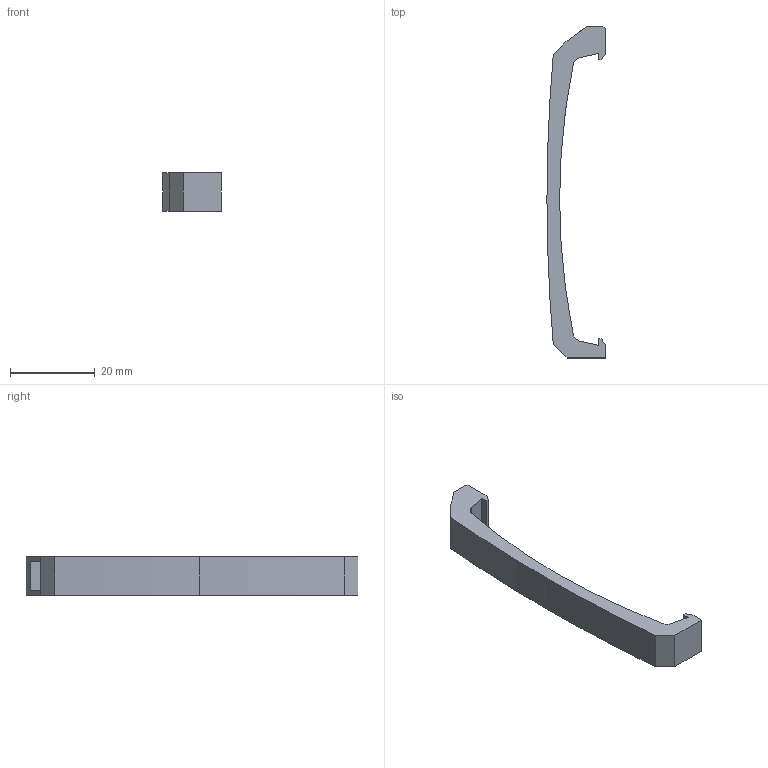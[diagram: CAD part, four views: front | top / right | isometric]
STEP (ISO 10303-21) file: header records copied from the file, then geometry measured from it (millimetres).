
FILE_DESCRIPTION (( 'STEP AP203' ), '1' );
FILE_NAME ('clip.STEP', '2024-01-03T23:04:02', ( '' ), ( '' ), 'SwSTEP 2.0', 'SolidWorks 2020', '' );
FILE_SCHEMA (( 'CONFIG_CONTROL_DESIGN' ));
Length unit declared in the file: millimetre
Products named in the file (1): clip
Bounding box: 13.75 x 78.5 x 9 mm (x, y, z)
Volume: 3086.7 mm3; surface area: 2546.8 mm2
Topology: 1 solids, 1 shells, 29 faces, 79 edges, 52 vertices
Faces by surface type: plane 23, cylinder 6
Entity records: 986 total; most frequent: CARTESIAN_POINT 161, ORIENTED_EDGE 158, DIRECTION 151, EDGE_CURVE 79, LINE 67, VECTOR 67, VERTEX_POINT 52, AXIS2_PLACEMENT_3D 42
